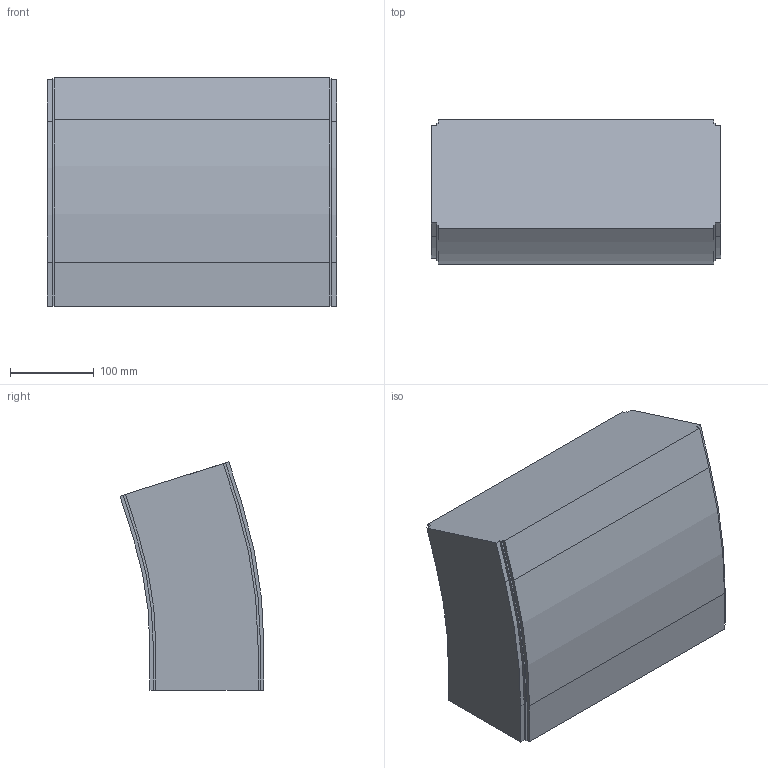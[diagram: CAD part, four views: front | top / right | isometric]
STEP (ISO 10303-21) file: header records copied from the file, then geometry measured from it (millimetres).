
FILE_DESCRIPTION (( 'STEP AP214' ), '1' );
FILE_NAME ('FS-MTC2-150-INOX verticaalbocht.350 17,5°.STEP', '2017-02-08T12:42:01', ( '' ), ( '' ), 'SwSTEP 2.0', 'SolidWorks 2016', '' );
FILE_SCHEMA (( 'AUTOMOTIVE_DESIGN' ));
Length unit declared in the file: millimetre
Products named in the file (1): FS-MTC2-150-INOX verticaalbocht.350 17,5°
Bounding box: 346 x 172.27 x 273.45 mm (x, y, z)
Volume: 12120552.7 mm3; surface area: 342757.4 mm2
Topology: 1 solids, 1 shells, 42 faces, 120 edges, 80 vertices
Faces by surface type: plane 32, cylinder 10
Entity records: 1398 total; most frequent: CARTESIAN_POINT 243, ORIENTED_EDGE 240, DIRECTION 226, EDGE_CURVE 120, VECTOR 100, LINE 100, VERTEX_POINT 80, AXIS2_PLACEMENT_3D 63
